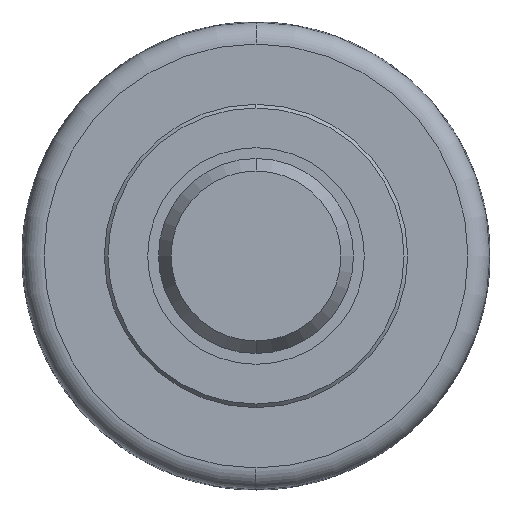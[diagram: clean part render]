
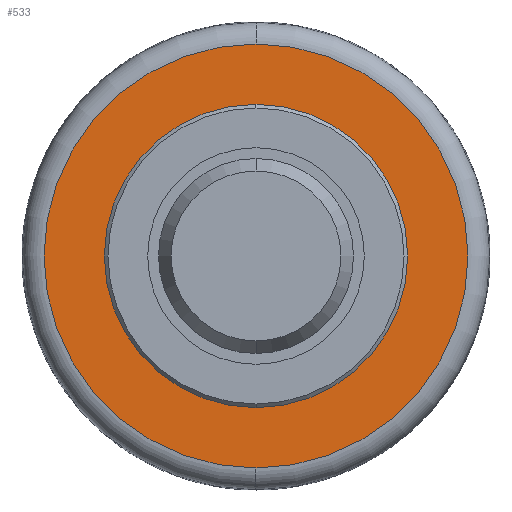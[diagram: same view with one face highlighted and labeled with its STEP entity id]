
A CAD part, left-side view. The second image highlights one B-rep face of the part: STEP entity #533.
In plain terms, the highlighted planar face has unit normal (-1, 0, 0).
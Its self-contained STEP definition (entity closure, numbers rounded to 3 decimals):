
#11 = CARTESIAN_POINT ( 'NONE',  ( -5.25, 0., 0. ) ) ;
#18 = ORIENTED_EDGE ( 'NONE', *, *, #172, .T. ) ;
#35 = CARTESIAN_POINT ( 'NONE',  ( -5.25, 0., 0. ) ) ;
#41 = AXIS2_PLACEMENT_3D ( 'NONE', #140, #522, #89 ) ;
#44 = DIRECTION ( 'NONE',  ( -1., 0., 0. ) ) ;
#51 = CIRCLE ( 'NONE', #41, 29.351 ) ;
#74 = DIRECTION ( 'NONE',  ( 0., 0., 1. ) ) ;
#77 = CIRCLE ( 'NONE', #608, 21. ) ;
#89 = DIRECTION ( 'NONE',  ( 0., 0., 1. ) ) ;
#99 = ORIENTED_EDGE ( 'NONE', *, *, #637, .T. ) ;
#120 = VERTEX_POINT ( 'NONE', #480 ) ;
#130 = DIRECTION ( 'NONE',  ( -1., 0., 0. ) ) ;
#140 = CARTESIAN_POINT ( 'NONE',  ( -5.25, 0., 0. ) ) ;
#146 = CIRCLE ( 'NONE', #259, 29.351 ) ;
#172 = EDGE_CURVE ( 'NONE', #614, #120, #146, .T. ) ;
#230 = EDGE_CURVE ( 'NONE', #493, #453, #77, .T. ) ;
#259 = AXIS2_PLACEMENT_3D ( 'NONE', #11, #439, #74 ) ;
#262 = FACE_OUTER_BOUND ( 'NONE', #744, .T. ) ;
#383 = EDGE_LOOP ( 'NONE', ( #625, #515 ) ) ;
#392 = CIRCLE ( 'NONE', #680, 21. ) ;
#399 = DIRECTION ( 'NONE',  ( -1., 0., 0. ) ) ;
#407 = DIRECTION ( 'NONE',  ( 0., 0., 1. ) ) ;
#439 = DIRECTION ( 'NONE',  ( -1., 0., 0. ) ) ;
#453 = VERTEX_POINT ( 'NONE', #718 ) ;
#470 = PLANE ( 'NONE',  #507 ) ;
#480 = CARTESIAN_POINT ( 'NONE',  ( -5.25, 0., -29.351 ) ) ;
#493 = VERTEX_POINT ( 'NONE', #655 ) ;
#507 = AXIS2_PLACEMENT_3D ( 'NONE', #728, #44, #407 ) ;
#508 = CARTESIAN_POINT ( 'NONE',  ( -5.25, 0., 0. ) ) ;
#515 = ORIENTED_EDGE ( 'NONE', *, *, #598, .F. ) ;
#522 = DIRECTION ( 'NONE',  ( -1., 0., 0. ) ) ;
#533 = ADVANCED_FACE ( 'NONE', ( #262, #565 ), #470, .T. ) ;
#565 = FACE_BOUND ( 'NONE', #383, .T. ) ;
#574 = DIRECTION ( 'NONE',  ( 0., 0., 1. ) ) ;
#598 = EDGE_CURVE ( 'NONE', #453, #493, #392, .T. ) ;
#608 = AXIS2_PLACEMENT_3D ( 'NONE', #508, #130, #574 ) ;
#614 = VERTEX_POINT ( 'NONE', #650 ) ;
#625 = ORIENTED_EDGE ( 'NONE', *, *, #230, .F. ) ;
#637 = EDGE_CURVE ( 'NONE', #120, #614, #51, .T. ) ;
#650 = CARTESIAN_POINT ( 'NONE',  ( -5.25, 0., 29.351 ) ) ;
#655 = CARTESIAN_POINT ( 'NONE',  ( -5.25, 0., -21. ) ) ;
#680 = AXIS2_PLACEMENT_3D ( 'NONE', #35, #399, #780 ) ;
#718 = CARTESIAN_POINT ( 'NONE',  ( -5.25, 0., 21. ) ) ;
#728 = CARTESIAN_POINT ( 'NONE',  ( -5.25, 32.3, 0. ) ) ;
#744 = EDGE_LOOP ( 'NONE', ( #18, #99 ) ) ;
#780 = DIRECTION ( 'NONE',  ( 0., 0., 1. ) ) ;
